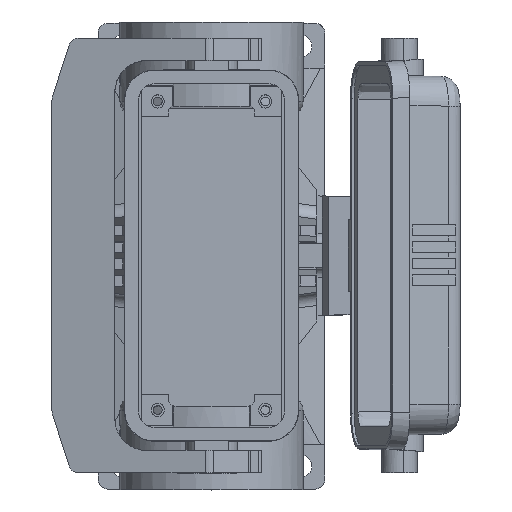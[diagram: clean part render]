
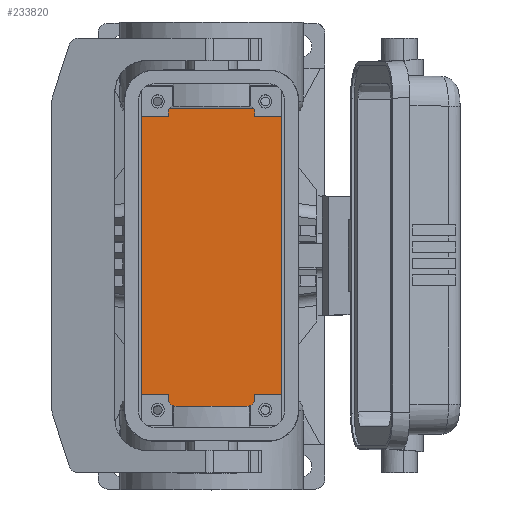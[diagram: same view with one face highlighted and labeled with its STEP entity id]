
A CAD part, top view. The second image highlights one B-rep face of the part: STEP entity #233820.
In plain terms, the highlighted planar face has unit normal (0, 0, 1).
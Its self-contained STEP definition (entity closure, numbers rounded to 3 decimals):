
#145890=CARTESIAN_POINT('',(164.323,17.374,
48.83));
#145900=VERTEX_POINT('',#145890);
#145930=CARTESIAN_POINT('',(164.323,67.451,
48.83));
#145940=DIRECTION('',(0.,-1.,0.));
#145950=VECTOR('',#145940,1.);
#145960=LINE('',#145930,#145950);
#145970=CARTESIAN_POINT('',(164.323,54.227,
48.83));
#145980=VERTEX_POINT('',#145970);
#145990=EDGE_CURVE('',#145980,#145900,#145960,.T.);
#150990=CARTESIAN_POINT('',(139.823,54.227,
48.83));
#151000=DIRECTION('',(-1.,0.,0.));
#151010=VECTOR('',#151000,1.);
#151020=LINE('',#150990,#151010);
#151030=CARTESIAN_POINT('',(89.377,54.227,
48.83));
#151040=VERTEX_POINT('',#151030);
#151050=EDGE_CURVE('',#145980,#151040,#151020,.T.);
#166940=CARTESIAN_POINT('',(89.377,17.374,
48.83));
#166950=VERTEX_POINT('',#166940);
#166980=CARTESIAN_POINT('',(139.823,17.374,
48.83));
#166990=DIRECTION('',(-1.,0.,0.));
#167000=VECTOR('',#166990,1.);
#167010=LINE('',#166980,#167000);
#167020=EDGE_CURVE('',#145900,#166950,#167010,.T.);
#221580=CARTESIAN_POINT('',(89.377,67.451,
48.83));
#221590=DIRECTION('',(0.,1.,0.));
#221600=VECTOR('',#221590,1.);
#221610=LINE('',#221580,#221600);
#221620=EDGE_CURVE('',#166950,#151040,#221610,.T.);
#233710=CARTESIAN_POINT('',(86.839,16.452,
48.83));
#233720=DIRECTION('',(0.,0.,1.));
#233730=DIRECTION('',(1.,0.,0.));
#233740=AXIS2_PLACEMENT_3D('',#233710,#233720,#233730);
#233750=PLANE('',#233740);
#233760=ORIENTED_EDGE('',*,*,#221620,.F.);
#233770=ORIENTED_EDGE('',*,*,#151050,.T.);
#233780=ORIENTED_EDGE('',*,*,#145990,.F.);
#233790=ORIENTED_EDGE('',*,*,#167020,.F.);
#233800=EDGE_LOOP('',(#233790,#233780,#233770,#233760));
#233810=FACE_OUTER_BOUND('',#233800,.T.);
#233820=ADVANCED_FACE('',(#233810),#233750,.T.);
